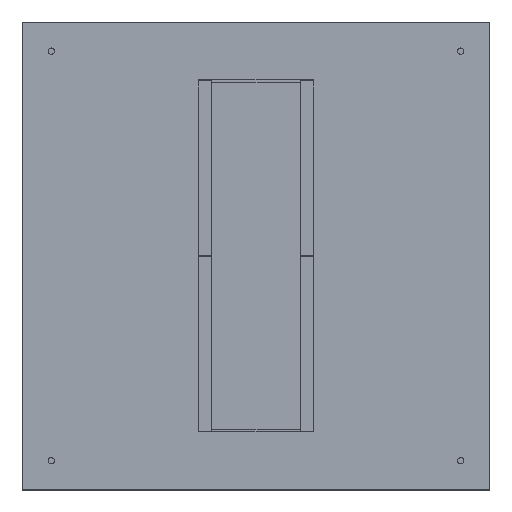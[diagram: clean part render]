
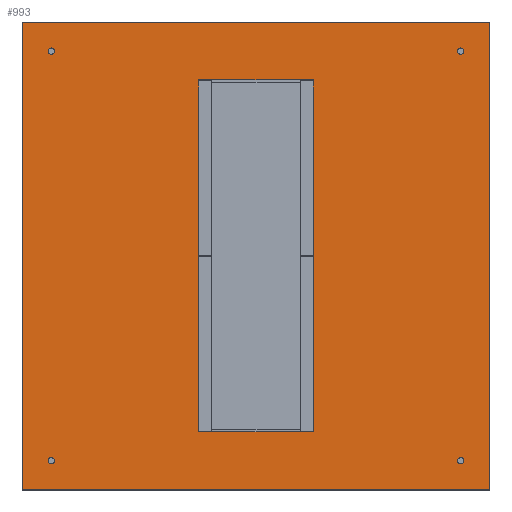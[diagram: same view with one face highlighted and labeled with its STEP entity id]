
A CAD part, top view. The second image highlights one B-rep face of the part: STEP entity #993.
In plain terms, the highlighted planar face has unit normal (0, 0, 1).
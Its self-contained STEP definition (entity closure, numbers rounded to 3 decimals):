
#2 = CARTESIAN_POINT ( 'NONE',  ( -60.5, -186.5, 45.8 ) ) ;
#3 = FACE_BOUND ( 'NONE', #2783, .T. ) ;
#12 = CARTESIAN_POINT ( 'NONE',  ( -60.5, 186.5, 45.8 ) ) ;
#17 = AXIS2_PLACEMENT_3D ( 'NONE', #1790, #2281, #1524 ) ;
#25 = EDGE_CURVE ( 'NONE', #2185, #1222, #1276, .T. ) ;
#32 = FACE_BOUND ( 'NONE', #685, .T. ) ;
#35 = ORIENTED_EDGE ( 'NONE', *, *, #1890, .F. ) ;
#44 = ORIENTED_EDGE ( 'NONE', *, *, #2612, .F. ) ;
#64 = CIRCLE ( 'NONE', #1623, 3.4 ) ;
#80 = ORIENTED_EDGE ( 'NONE', *, *, #2138, .F. ) ;
#100 = EDGE_LOOP ( 'NONE', ( #2978, #1050, #1380, #1130 ) ) ;
#120 = ORIENTED_EDGE ( 'NONE', *, *, #1895, .F. ) ;
#146 = CARTESIAN_POINT ( 'NONE',  ( 213.6, 217., 45.8 ) ) ;
#164 = EDGE_CURVE ( 'NONE', #302, #1328, #2649, .T. ) ;
#175 = VECTOR ( 'NONE', #2781, 1000. ) ;
#190 = DIRECTION ( 'NONE',  ( 1., 0., 0. ) ) ;
#225 = VECTOR ( 'NONE', #1024, 1000. ) ;
#255 = CARTESIAN_POINT ( 'NONE',  ( -247.95, 247.95, 45.8 ) ) ;
#302 = VERTEX_POINT ( 'NONE', #2957 ) ;
#310 = ORIENTED_EDGE ( 'NONE', *, *, #355, .T. ) ;
#343 = VERTEX_POINT ( 'NONE', #146 ) ;
#347 = VERTEX_POINT ( 'NONE', #2311 ) ;
#348 = ORIENTED_EDGE ( 'NONE', *, *, #1077, .F. ) ;
#355 = EDGE_CURVE ( 'NONE', #1222, #1035, #1107, .T. ) ;
#369 = DIRECTION ( 'NONE',  ( 1., 0., 0. ) ) ;
#428 = CIRCLE ( 'NONE', #3004, 3.4 ) ;
#465 = CARTESIAN_POINT ( 'NONE',  ( -213.6, 217., 45.8 ) ) ;
#482 = AXIS2_PLACEMENT_3D ( 'NONE', #2333, #3022, #190 ) ;
#493 = EDGE_CURVE ( 'NONE', #2148, #916, #1991, .T. ) ;
#501 = EDGE_CURVE ( 'NONE', #343, #347, #64, .T. ) ;
#514 = FACE_BOUND ( 'NONE', #2681, .T. ) ;
#555 = LINE ( 'NONE', #1508, #1519 ) ;
#557 = DIRECTION ( 'NONE',  ( 0., 0., -1. ) ) ;
#569 = ORIENTED_EDGE ( 'NONE', *, *, #1030, .F. ) ;
#572 = VECTOR ( 'NONE', #3011, 1000. ) ;
#583 = DIRECTION ( 'NONE',  ( 1., 0., 0. ) ) ;
#607 = CARTESIAN_POINT ( 'NONE',  ( 0., 0., 45.8 ) ) ;
#625 = CIRCLE ( 'NONE', #482, 3.4 ) ;
#631 = CARTESIAN_POINT ( 'NONE',  ( -60.5, 186.5, 45.8 ) ) ;
#648 = VERTEX_POINT ( 'NONE', #1780 ) ;
#665 = EDGE_CURVE ( 'NONE', #648, #2185, #3027, .T. ) ;
#671 = CIRCLE ( 'NONE', #1464, 3.4 ) ;
#685 = EDGE_LOOP ( 'NONE', ( #348, #44 ) ) ;
#709 = FACE_OUTER_BOUND ( 'NONE', #1506, .T. ) ;
#711 = CIRCLE ( 'NONE', #960, 3.4 ) ;
#731 = EDGE_CURVE ( 'NONE', #2905, #2325, #924, .T. ) ;
#737 = FACE_BOUND ( 'NONE', #100, .T. ) ;
#770 = LINE ( 'NONE', #2900, #1569 ) ;
#789 = CARTESIAN_POINT ( 'NONE',  ( -60.5, -186.5, 45.8 ) ) ;
#840 = DIRECTION ( 'NONE',  ( -1., 0., 0. ) ) ;
#885 = LINE ( 'NONE', #2053, #175 ) ;
#892 = CARTESIAN_POINT ( 'NONE',  ( 247.95, -247.95, 45.8 ) ) ;
#907 = VERTEX_POINT ( 'NONE', #2187 ) ;
#916 = VERTEX_POINT ( 'NONE', #997 ) ;
#924 = CIRCLE ( 'NONE', #1949, 3.4 ) ;
#960 = AXIS2_PLACEMENT_3D ( 'NONE', #1911, #2232, #1251 ) ;
#993 = ADVANCED_FACE ( 'NONE', ( #737, #514, #32, #3, #1891, #709 ), #2873, .F. ) ;
#997 = CARTESIAN_POINT ( 'NONE',  ( 60.5, -186.5, 45.8 ) ) ;
#1024 = DIRECTION ( 'NONE',  ( -1., 0., 0. ) ) ;
#1030 = EDGE_CURVE ( 'NONE', #347, #343, #2372, .T. ) ;
#1035 = VERTEX_POINT ( 'NONE', #1552 ) ;
#1050 = ORIENTED_EDGE ( 'NONE', *, *, #2295, .F. ) ;
#1066 = DIRECTION ( 'NONE',  ( 0., 0., 1. ) ) ;
#1077 = EDGE_CURVE ( 'NONE', #2500, #907, #428, .T. ) ;
#1090 = ORIENTED_EDGE ( 'NONE', *, *, #1634, .T. ) ;
#1107 = LINE ( 'NONE', #2067, #572 ) ;
#1120 = VECTOR ( 'NONE', #1490, 1000. ) ;
#1130 = ORIENTED_EDGE ( 'NONE', *, *, #2392, .F. ) ;
#1193 = DIRECTION ( 'NONE',  ( 0., 0., 1. ) ) ;
#1222 = VERTEX_POINT ( 'NONE', #255 ) ;
#1247 = VERTEX_POINT ( 'NONE', #465 ) ;
#1248 = CARTESIAN_POINT ( 'NONE',  ( 220.4, -217., 45.8 ) ) ;
#1251 = DIRECTION ( 'NONE',  ( -1., 0., 0. ) ) ;
#1252 = VECTOR ( 'NONE', #583, 1000. ) ;
#1276 = LINE ( 'NONE', #2214, #225 ) ;
#1328 = VERTEX_POINT ( 'NONE', #631 ) ;
#1380 = ORIENTED_EDGE ( 'NONE', *, *, #493, .F. ) ;
#1448 = CARTESIAN_POINT ( 'NONE',  ( -217., 217., 45.8 ) ) ;
#1464 = AXIS2_PLACEMENT_3D ( 'NONE', #2472, #1193, #2248 ) ;
#1490 = DIRECTION ( 'NONE',  ( -1., 0., 0. ) ) ;
#1506 = EDGE_LOOP ( 'NONE', ( #2440, #2501, #310, #1090 ) ) ;
#1508 = CARTESIAN_POINT ( 'NONE',  ( -60.5, -186.5, 45.8 ) ) ;
#1519 = VECTOR ( 'NONE', #2465, 1000. ) ;
#1524 = DIRECTION ( 'NONE',  ( 1., 0., 0. ) ) ;
#1540 = CARTESIAN_POINT ( 'NONE',  ( -217., -217., 45.8 ) ) ;
#1547 = DIRECTION ( 'NONE',  ( 1., 0., 0. ) ) ;
#1552 = CARTESIAN_POINT ( 'NONE',  ( -247.95, -247.95, 45.8 ) ) ;
#1569 = VECTOR ( 'NONE', #1971, 1000. ) ;
#1574 = DIRECTION ( 'NONE',  ( 0., 1., 0. ) ) ;
#1581 = DIRECTION ( 'NONE',  ( 0., 0., 1. ) ) ;
#1623 = AXIS2_PLACEMENT_3D ( 'NONE', #2506, #1581, #1547 ) ;
#1634 = EDGE_CURVE ( 'NONE', #1035, #648, #885, .T. ) ;
#1780 = CARTESIAN_POINT ( 'NONE',  ( 247.95, -247.95, 45.8 ) ) ;
#1790 = CARTESIAN_POINT ( 'NONE',  ( 217., 217., 45.8 ) ) ;
#1795 = VERTEX_POINT ( 'NONE', #1838 ) ;
#1838 = CARTESIAN_POINT ( 'NONE',  ( -220.4, 217., 45.8 ) ) ;
#1846 = CARTESIAN_POINT ( 'NONE',  ( 217., -217., 45.8 ) ) ;
#1860 = ORIENTED_EDGE ( 'NONE', *, *, #731, .F. ) ;
#1888 = ORIENTED_EDGE ( 'NONE', *, *, #501, .F. ) ;
#1890 = EDGE_CURVE ( 'NONE', #1247, #1795, #711, .T. ) ;
#1891 = FACE_BOUND ( 'NONE', #2754, .T. ) ;
#1895 = EDGE_CURVE ( 'NONE', #2325, #2905, #671, .T. ) ;
#1911 = CARTESIAN_POINT ( 'NONE',  ( -217., 217., 45.8 ) ) ;
#1949 = AXIS2_PLACEMENT_3D ( 'NONE', #1846, #2803, #2981 ) ;
#1971 = DIRECTION ( 'NONE',  ( 0., 1., 0. ) ) ;
#1991 = LINE ( 'NONE', #789, #1252 ) ;
#2053 = CARTESIAN_POINT ( 'NONE',  ( -247.95, -247.95, 45.8 ) ) ;
#2067 = CARTESIAN_POINT ( 'NONE',  ( -247.95, -247.95, 45.8 ) ) ;
#2138 = EDGE_CURVE ( 'NONE', #1795, #1247, #2851, .T. ) ;
#2148 = VERTEX_POINT ( 'NONE', #2 ) ;
#2185 = VERTEX_POINT ( 'NONE', #2630 ) ;
#2187 = CARTESIAN_POINT ( 'NONE',  ( -220.4, -217., 45.8 ) ) ;
#2214 = CARTESIAN_POINT ( 'NONE',  ( -247.95, 247.95, 45.8 ) ) ;
#2232 = DIRECTION ( 'NONE',  ( 0., 0., 1. ) ) ;
#2248 = DIRECTION ( 'NONE',  ( -1., 0., 0. ) ) ;
#2281 = DIRECTION ( 'NONE',  ( 0., 0., 1. ) ) ;
#2295 = EDGE_CURVE ( 'NONE', #916, #302, #770, .T. ) ;
#2311 = CARTESIAN_POINT ( 'NONE',  ( 220.4, 217., 45.8 ) ) ;
#2325 = VERTEX_POINT ( 'NONE', #1248 ) ;
#2333 = CARTESIAN_POINT ( 'NONE',  ( -217., -217., 45.8 ) ) ;
#2372 = CIRCLE ( 'NONE', #17, 3.4 ) ;
#2377 = AXIS2_PLACEMENT_3D ( 'NONE', #1448, #2833, #2651 ) ;
#2392 = EDGE_CURVE ( 'NONE', #1328, #2148, #555, .T. ) ;
#2430 = CARTESIAN_POINT ( 'NONE',  ( 213.6, -217., 45.8 ) ) ;
#2440 = ORIENTED_EDGE ( 'NONE', *, *, #665, .T. ) ;
#2465 = DIRECTION ( 'NONE',  ( 0., -1., 0. ) ) ;
#2472 = CARTESIAN_POINT ( 'NONE',  ( 217., -217., 45.8 ) ) ;
#2500 = VERTEX_POINT ( 'NONE', #2770 ) ;
#2501 = ORIENTED_EDGE ( 'NONE', *, *, #25, .T. ) ;
#2506 = CARTESIAN_POINT ( 'NONE',  ( 217., 217., 45.8 ) ) ;
#2573 = AXIS2_PLACEMENT_3D ( 'NONE', #607, #557, #840 ) ;
#2612 = EDGE_CURVE ( 'NONE', #907, #2500, #625, .T. ) ;
#2630 = CARTESIAN_POINT ( 'NONE',  ( 247.95, 247.95, 45.8 ) ) ;
#2649 = LINE ( 'NONE', #12, #1120 ) ;
#2651 = DIRECTION ( 'NONE',  ( -1., 0., 0. ) ) ;
#2681 = EDGE_LOOP ( 'NONE', ( #35, #80 ) ) ;
#2754 = EDGE_LOOP ( 'NONE', ( #569, #1888 ) ) ;
#2764 = VECTOR ( 'NONE', #1574, 1000. ) ;
#2770 = CARTESIAN_POINT ( 'NONE',  ( -213.6, -217., 45.8 ) ) ;
#2781 = DIRECTION ( 'NONE',  ( 1., 0., 0. ) ) ;
#2783 = EDGE_LOOP ( 'NONE', ( #120, #1860 ) ) ;
#2803 = DIRECTION ( 'NONE',  ( 0., 0., 1. ) ) ;
#2833 = DIRECTION ( 'NONE',  ( 0., 0., 1. ) ) ;
#2851 = CIRCLE ( 'NONE', #2377, 3.4 ) ;
#2873 = PLANE ( 'NONE',  #2573 ) ;
#2900 = CARTESIAN_POINT ( 'NONE',  ( 60.5, -186.5, 45.8 ) ) ;
#2905 = VERTEX_POINT ( 'NONE', #2430 ) ;
#2957 = CARTESIAN_POINT ( 'NONE',  ( 60.5, 186.5, 45.8 ) ) ;
#2978 = ORIENTED_EDGE ( 'NONE', *, *, #164, .F. ) ;
#2981 = DIRECTION ( 'NONE',  ( -1., 0., 0. ) ) ;
#3004 = AXIS2_PLACEMENT_3D ( 'NONE', #1540, #1066, #369 ) ;
#3011 = DIRECTION ( 'NONE',  ( 0., -1., 0. ) ) ;
#3022 = DIRECTION ( 'NONE',  ( 0., 0., 1. ) ) ;
#3027 = LINE ( 'NONE', #892, #2764 ) ;
